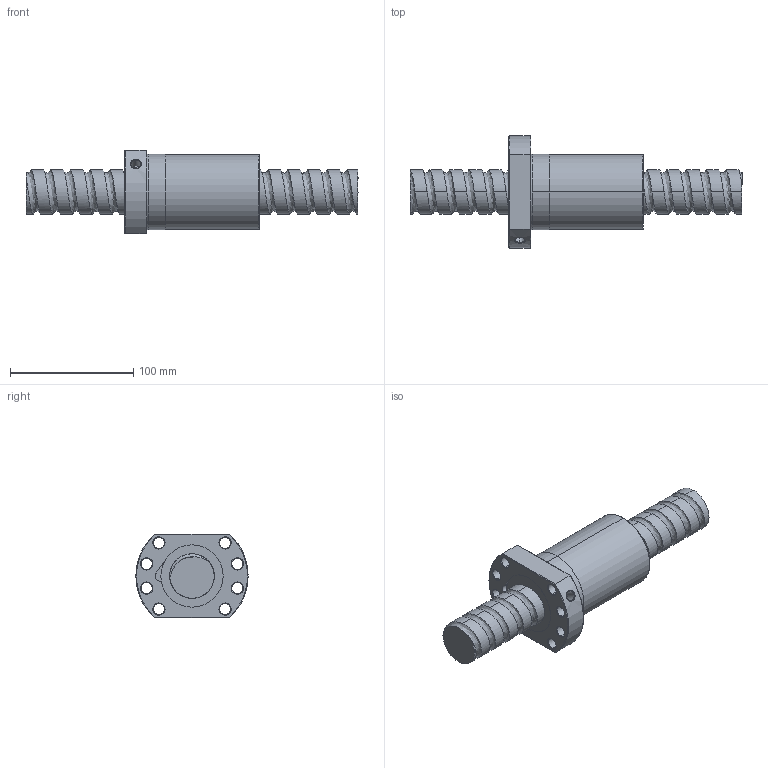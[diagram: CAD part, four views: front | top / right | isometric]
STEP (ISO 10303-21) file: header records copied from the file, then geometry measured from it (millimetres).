
FILE_DESCRIPTION (( 'STEP AP214' ), '1' );
FILE_NAME ('FSDC03616T5-F-C.STEP', '2010-06-25T11:59:11', ( 'XPAUTO' ), ( 'XPAUTO' ), 'SwSTEP 2.0', 'SolidWorks 2007', '' );
FILE_SCHEMA (( 'AUTOMOTIVE_DESIGN' ));
Length unit declared in the file: millimetre
Products named in the file (3): FSDC03616T5-F-C; FSDC03616T5-F-C.sldasm-Part-2_預設; FSDC03616T5-F-C.sldasm-Part-1_預設
Assembly tree (2 placements, depth 2):
  FSDC03616T5-F-C
    FSDC03616T5-F-C.sldasm-Part-1_預設
    FSDC03616T5-F-C.sldasm-Part-2_預設
Bounding box: 269 x 91 x 68 mm (x, y, z)
Volume: 494935.8 mm3; surface area: 83256.9 mm2
Topology: 2 solids, 2 shells, 142 faces, 352 edges, 219 vertices
Faces by surface type: cylinder 77, cone 32, plane 22, torus 6, bspline 5
Entity records: 26187 total; most frequent: CARTESIAN_POINT 22803, ORIENTED_EDGE 704, DIRECTION 666, EDGE_CURVE 352, AXIS2_PLACEMENT_3D 270, VERTEX_POINT 219, EDGE_LOOP 167, FACE_OUTER_BOUND 142
